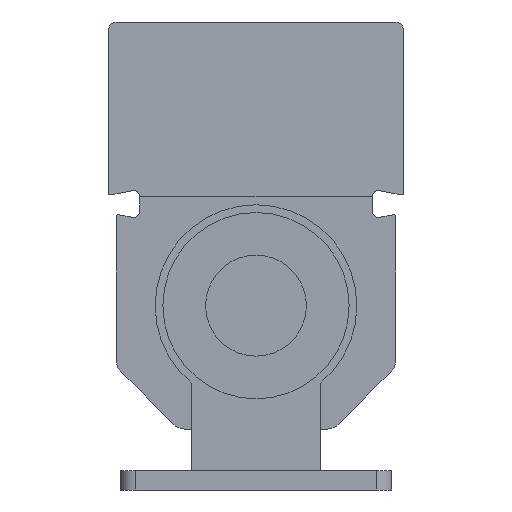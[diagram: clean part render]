
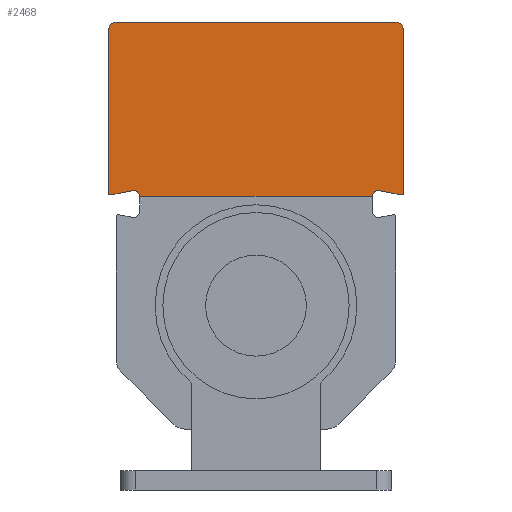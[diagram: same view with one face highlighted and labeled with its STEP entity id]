
A CAD part, front view. The second image highlights one B-rep face of the part: STEP entity #2468.
In plain terms, the highlighted planar face has unit normal (0, -1, 0).
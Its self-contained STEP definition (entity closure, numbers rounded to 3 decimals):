
#54=CIRCLE('',#2554,0.3);
#58=CIRCLE('',#2559,1.6);
#82=CIRCLE('',#2610,0.3);
#84=CIRCLE('',#2613,1.6);
#98=CIRCLE('',#2642,2.);
#104=CIRCLE('',#2653,2.);
#618=ORIENTED_EDGE('',*,*,#914,.F.);
#619=ORIENTED_EDGE('',*,*,#885,.T.);
#620=ORIENTED_EDGE('',*,*,#857,.T.);
#621=ORIENTED_EDGE('',*,*,#883,.T.);
#622=ORIENTED_EDGE('',*,*,#878,.T.);
#623=ORIENTED_EDGE('',*,*,#911,.T.);
#624=ORIENTED_EDGE('',*,*,#674,.T.);
#625=ORIENTED_EDGE('',*,*,#919,.T.);
#626=ORIENTED_EDGE('',*,*,#826,.T.);
#627=ORIENTED_EDGE('',*,*,#804,.T.);
#628=ORIENTED_EDGE('',*,*,#862,.T.);
#629=ORIENTED_EDGE('',*,*,#811,.T.);
#674=EDGE_CURVE('',#933,#932,#1105,.T.);
#804=EDGE_CURVE('',#1040,#1039,#54,.T.);
#811=EDGE_CURVE('',#1046,#1045,#58,.T.);
#826=EDGE_CURVE('',#1055,#1040,#1212,.T.);
#857=EDGE_CURVE('',#1075,#1074,#1233,.T.);
#862=EDGE_CURVE('',#1039,#1046,#1236,.T.);
#878=EDGE_CURVE('',#1085,#1084,#1247,.T.);
#883=EDGE_CURVE('',#1074,#1085,#82,.T.);
#885=EDGE_CURVE('',#1086,#1075,#84,.T.);
#911=EDGE_CURVE('',#1084,#933,#98,.T.);
#914=EDGE_CURVE('',#1086,#1045,#1262,.T.);
#919=EDGE_CURVE('',#932,#1055,#104,.T.);
#932=VERTEX_POINT('',#3227);
#933=VERTEX_POINT('',#3229);
#1039=VERTEX_POINT('',#3507);
#1040=VERTEX_POINT('',#3509);
#1045=VERTEX_POINT('',#3521);
#1046=VERTEX_POINT('',#3523);
#1055=VERTEX_POINT('',#3556);
#1074=VERTEX_POINT('',#3612);
#1075=VERTEX_POINT('',#3614);
#1084=VERTEX_POINT('',#3655);
#1085=VERTEX_POINT('',#3657);
#1086=VERTEX_POINT('',#3668);
#1105=LINE('',#3228,#1273);
#1212=LINE('',#3555,#1380);
#1233=LINE('',#3613,#1401);
#1236=LINE('',#3623,#1404);
#1247=LINE('',#3656,#1415);
#1262=LINE('',#3725,#1430);
#1273=VECTOR('',#2676,1000.);
#1380=VECTOR('',#2947,1000.);
#1401=VECTOR('',#3002,1000.);
#1404=VECTOR('',#3013,1000.);
#1415=VECTOR('',#3054,1000.);
#1430=VECTOR('',#3151,1000.);
#1531=EDGE_LOOP('',(#618,#619,#620,#621,#622,#623,#624,#625,#626,#627,#628,
#629));
#1641=FACE_BOUND('',#1531,.T.);
#1706=PLANE('',#2652);
#2468=ADVANCED_FACE('',(#1641),#1706,.T.);
#2554=AXIS2_PLACEMENT_3D('',#3508,#2904,#2905);
#2559=AXIS2_PLACEMENT_3D('',#3522,#2917,#2918);
#2610=AXIS2_PLACEMENT_3D('',#3664,#3066,#3067);
#2613=AXIS2_PLACEMENT_3D('',#3667,#3072,#3073);
#2642=AXIS2_PLACEMENT_3D('',#3720,#3142,#3143);
#2652=AXIS2_PLACEMENT_3D('',#3732,#3164,#3165);
#2653=AXIS2_PLACEMENT_3D('',#3733,#3166,#3167);
#2676=DIRECTION('',(-1.,0.,0.));
#2904=DIRECTION('',(0.,-1.,0.));
#2905=DIRECTION('',(1.,0.,0.));
#2917=DIRECTION('',(0.,1.,0.));
#2918=DIRECTION('',(1.,0.,0.));
#2947=DIRECTION('',(0.,0.,-1.));
#3002=DIRECTION('',(0.982,0.,-0.191));
#3013=DIRECTION('',(0.982,0.,0.191));
#3054=DIRECTION('',(0.,0.,1.));
#3066=DIRECTION('',(0.,-1.,0.));
#3067=DIRECTION('',(0.,0.,-1.));
#3072=DIRECTION('',(0.,1.,0.));
#3073=DIRECTION('',(1.,0.,0.));
#3142=DIRECTION('',(0.,-1.,0.));
#3143=DIRECTION('',(0.,0.,-1.));
#3151=DIRECTION('',(-1.,0.,0.));
#3164=DIRECTION('',(0.,-1.,0.));
#3165=DIRECTION('',(0.,0.,-1.));
#3166=DIRECTION('',(0.,-1.,0.));
#3167=DIRECTION('',(0.,0.,-1.));
#3227=CARTESIAN_POINT('',(-36.,-304.8,59.15));
#3228=CARTESIAN_POINT('',(36.,-304.8,59.15));
#3229=CARTESIAN_POINT('',(36.,-304.8,59.15));
#3507=CARTESIAN_POINT('',(-37.643,-304.8,14.569));
#3508=CARTESIAN_POINT('',(-37.7,-304.8,14.864));
#3509=CARTESIAN_POINT('',(-38.,-304.8,14.864));
#3521=CARTESIAN_POINT('',(-30.006,-304.8,14.25));
#3522=CARTESIAN_POINT('',(-31.6,-304.8,14.114));
#3523=CARTESIAN_POINT('',(-31.905,-304.8,15.685));
#3555=CARTESIAN_POINT('',(-38.,-304.8,43.75));
#3556=CARTESIAN_POINT('',(-38.,-304.8,57.15));
#3612=CARTESIAN_POINT('',(37.643,-304.8,14.569));
#3613=CARTESIAN_POINT('',(31.905,-304.8,15.685));
#3614=CARTESIAN_POINT('',(31.905,-304.8,15.685));
#3623=CARTESIAN_POINT('',(-37.643,-304.8,14.569));
#3655=CARTESIAN_POINT('',(38.,-304.8,57.15));
#3656=CARTESIAN_POINT('',(38.,-304.8,14.864));
#3657=CARTESIAN_POINT('',(38.,-304.8,14.864));
#3664=CARTESIAN_POINT('',(37.7,-304.8,14.864));
#3667=CARTESIAN_POINT('',(31.6,-304.8,14.114));
#3668=CARTESIAN_POINT('',(30.006,-304.8,14.25));
#3720=CARTESIAN_POINT('',(36.,-304.8,57.15));
#3725=CARTESIAN_POINT('',(36.,-304.8,14.25));
#3732=CARTESIAN_POINT('',(36.,-304.8,43.75));
#3733=CARTESIAN_POINT('',(-36.,-304.8,57.15));
